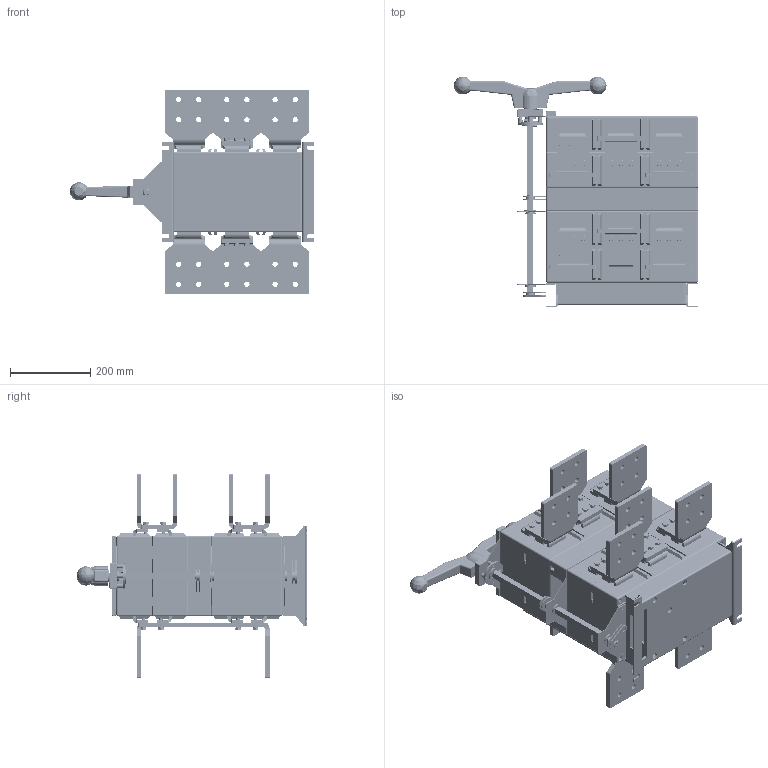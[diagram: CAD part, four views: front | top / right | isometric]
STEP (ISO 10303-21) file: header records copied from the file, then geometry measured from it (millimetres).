
FILE_DESCRIPTION((''),'2;1');
FILE_NAME('ASM0003_ASM','2024-01-24T',('zhuanghy'),(''),'CREO PARAMETRIC BY PTC INC, 2018070','CREO PARAMETRIC BY PTC INC, 2018070','');
FILE_SCHEMA(('AUTOMOTIVE_DESIGN { 1 0 10303 214 1 1 1 1 }'));
Products named in the file (312): NH40_2000______3_1_AF72_1_1_1_3; NH40_2000_________1_AF72_ASM__3_ASM; NH40_2000________A_1_1_AF24_1_3; NH40_2000_3__1_AF6_1_1_1_1_1_1_; NH40_2000________B_1_1_AF9_1__3; NH40_2000________B_1_1_AF10_1_3; NH40_2000____1_AF3_1_1_1_1_1_1_; NH40_2000_6__1_AF6_1_1_1_1_1_1_; NH40_1250____-56747_1_AF6_1_1_3; NH40_2000________A_1_1_AF18_1_3; NH40_2000______3_1_AF73_1_1_1_3; NH40_2000_________1_AF73_ASM__3_ASM; NH40_1250____-34469_1_AF3_1_1_3; NH40_2000______3_1_AF74_1_1_1_3; NH40_2000_________1_AF74_ASM__3_ASM; NH40_1250____-55063_1_AF9_1_1_3; NH40_1250____-55063_1_AF10_1__3; NH40_2000_5__1_AF12_1_1_1_1_1_1; NH40_2000_6__1_AF7_1_1_1_1_1_1_; NH40_2000______3_1_AF96_1_1_1_3; NH40_2000_________1_AF96_ASM__3_ASM; NH40_2000______3_1_AF75_1_1_1_3; NH40_2000_________1_AF75_ASM__3_ASM; NH40_1250____-56533_1_AF12_1__3; NH40_1250___-56316_1_AF2_1_1__2; NH40_2000______3_1_AF76_1_1_1_3; NH40_2000_________1_AF76_ASM__3_ASM; NH40_1250____-35536_1_AF6_1_1_3; NH40_1250____B_1_AF3_1_1_1_1_1_; NH40_2000________A_1_1_AF19_1_3; NH40_2000______3_1_AF77_1_1_1_3; NH40_2000_________1_AF77_ASM__3_ASM; NH40_2000_3__1_AF7_1_1_1_1_1_1_; NH40_2000______3_1_AF78_1_1_1_3; NH40_2000_________1_AF78_ASM__3_ASM; NH40_2000______3_1_AF79_1_1_1_3; NH40_2000_________1_AF79_ASM__3_ASM; NH40_2000______3_1_AF97_1_1_1_3; NH40_2000_________1_AF97_ASM__3_ASM; NH40_2000______3_1_AF80_1_1_1_3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
Assembly tree (403 placements, depth 10):
  ASM0003_ASM
    NH40-3150-3CS_3P_202308-_ASM
      NH40-3150-3CS_3P_202309_ASM_1_A_ASM
        NH40-2000-3CSASM_ASM_4_ASM_1_AS_ASM
          NH40-2000-3CS_3P_202207_ASM_2_3_ASM
            1-NH40-2000-3CS_4P_202104_-___3_ASM
              NH40_2000_____2_1_AF3_ASM_1_A_3_ASM
                NH40_2000_________1_AF72_ASM__3_ASM
                  NH40_2000______3_1_AF72_1_1_1_3
                NH40_2000________A_1_1_AF24_1_3
                NH40_2000_3__1_AF6_1_1_1_1_1_1_
                NH40_2000________B_1_1_AF9_1__3
                NH40_2000________B_1_1_AF10_1_3
                NH40_2000____1_AF3_1_1_1_1_1_1_
                NH40_2000_6__1_AF6_1_1_1_1_1_1_
                NH40_1250____-56747_1_AF6_1_1_3
                NH40_2000________A_1_1_AF18_1_3
                NH40_2000_________1_AF73_ASM__3_ASM
                  NH40_2000______3_1_AF73_1_1_1_3
                NH40_1250____-34469_1_AF3_1_1_3
                NH40_2000_________1_AF74_ASM__3_ASM
                  NH40_2000______3_1_AF74_1_1_1_3
                NH40_1250____-55063_1_AF9_1_1_3
                NH40_1250____-55063_1_AF10_1__3
                NH40_2000_5__1_AF12_1_1_1_1_1_1
                NH40_2000_6__1_AF7_1_1_1_1_1_1_
                NH40_2000_________1_AF96_ASM__3_ASM
                  NH40_2000______3_1_AF96_1_1_1_3
                NH40_2000_________1_AF75_ASM__3_ASM
                  NH40_2000______3_1_AF75_1_1_1_3
                NH40_1250____-56533_1_AF12_1__3
                NH40_1250___-56316_1_AF2_1_1__2
                NH40_2000_________1_AF76_ASM__3_ASM
                  NH40_2000______3_1_AF76_1_1_1_3
                NH40_1250____-35536_1_AF6_1_1_3
                NH40_1250____B_1_AF3_1_1_1_1_1_
                NH40_2000________A_1_1_AF19_1_3
                NH40_2000_________1_AF77_ASM__3_ASM
                  NH40_2000______3_1_AF77_1_1_1_3
                NH40_2000_3__1_AF7_1_1_1_1_1_1_
                NH40_2000_________1_AF78_ASM__3_ASM
                  NH40_2000______3_1_AF78_1_1_1_3
                NH40_2000_________1_AF79_ASM__3_ASM
                  NH40_2000______3_1_AF79_1_1_1_3
                NH40_2000_________1_AF97_ASM__3_ASM
                  NH40_2000______3_1_AF97_1_1_1_3
                NH40_2000_________1_AF80_ASM__3_ASM
                  NH40_2000______3_1_AF80_1_1_1_3
                NH40_2000_________1_AF81_ASM__3_ASM
                  NH40_2000______3_1_AF81_1_1_1_3
                NH40_2000_5__1_AF13_1_1_1_1_1_1
                NH40_1250____-35536_1_AF7_1_1_3
                NH40_2000_________1_AF82_ASM__3_ASM
                  NH40_2000______3_1_AF82_1_1_1_3
                NH40_2000________B_1_1_AF12_1_3
                NH40_2000_________1_AF98_ASM__3_ASM
                  NH40_2000______3_1_AF98_1_1_1_3
                NH40_2000_________1_AF99_ASM__3_ASM
                  NH40_2000______3_1_AF99_1_1_1_3
                NH40_2000_________1_AF83_ASM__3_ASM
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Bounding box: 607.99 x 574.04 x 510 mm (x, y, z)
Volume: 31339013.3 mm3; surface area: 3846954.6 mm2
Topology: 301 solids, 301 shells, 6090 faces, 15254 edges, 10044 vertices
Faces by surface type: plane 3294, cylinder 2067, cone 450, extrusion 175, bspline 58, sphere 24, torus 22
Entity records: 176999 total; most frequent: CARTESIAN_POINT 37461, DIRECTION 20280, ORIENTED_EDGE 18782, PRESENTATION_LAYER_ASSIGNMENT 10614, EDGE_CURVE 9391, PRESENTATION_STYLE_ASSIGNMENT 9006, STYLED_ITEM 9006, CURVE_STYLE 8944
